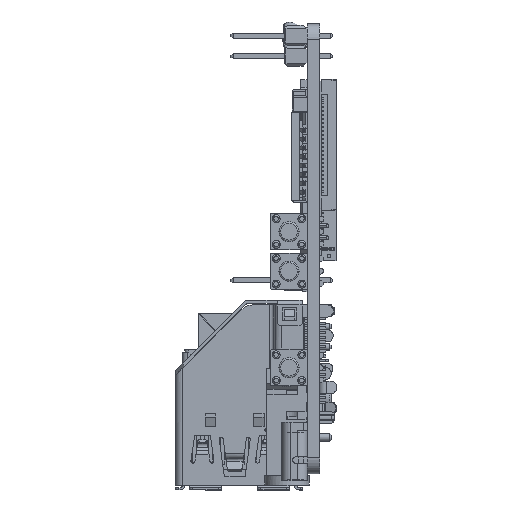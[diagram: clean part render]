
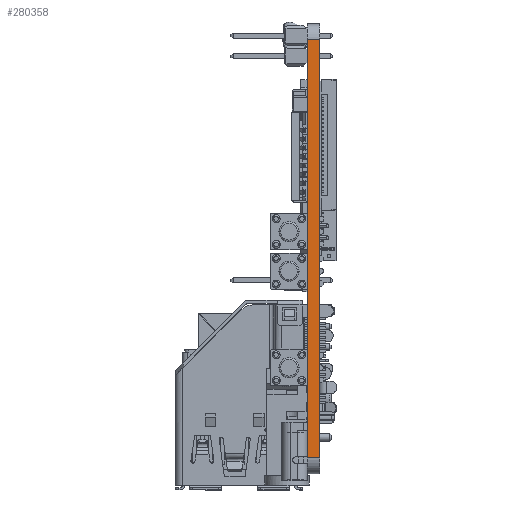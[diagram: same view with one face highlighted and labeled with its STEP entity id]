
A CAD part, left-side view. The second image highlights one B-rep face of the part: STEP entity #280358.
In plain terms, the highlighted planar face has unit normal (-1, 0, 0).
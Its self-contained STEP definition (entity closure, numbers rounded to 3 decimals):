
#3495 = DIRECTION ( 'NONE',  ( 0., 0., -1. ) ) ;
#6293 = LINE ( 'NONE', #268001, #131562 ) ;
#10223 = VECTOR ( 'NONE', #13216, 1000. ) ;
#13216 = DIRECTION ( 'NONE',  ( 0., 0., -1. ) ) ;
#26608 = FACE_OUTER_BOUND ( 'NONE', #273937, .T. ) ;
#29404 = CARTESIAN_POINT ( 'NONE',  ( 0., -1.6, -2. ) ) ;
#31093 = CARTESIAN_POINT ( 'NONE',  ( 0., -1.6, -2. ) ) ;
#38930 = CARTESIAN_POINT ( 'NONE',  ( 0., -1.6, -54. ) ) ;
#46414 = VECTOR ( 'NONE', #85305, 1000. ) ;
#60114 = ORIENTED_EDGE ( 'NONE', *, *, #174973, .T. ) ;
#70671 = DIRECTION ( 'NONE',  ( 0., 0., -1. ) ) ;
#78508 = VERTEX_POINT ( 'NONE', #31093 ) ;
#85305 = DIRECTION ( 'NONE',  ( 0., 1., 0. ) ) ;
#92172 = ORIENTED_EDGE ( 'NONE', *, *, #100977, .T. ) ;
#100977 = EDGE_CURVE ( 'NONE', #189230, #163682, #6293, .T. ) ;
#125549 = LINE ( 'NONE', #145504, #10223 ) ;
#130827 = CARTESIAN_POINT ( 'NONE',  ( 0., 0., -54. ) ) ;
#131562 = VECTOR ( 'NONE', #3495, 1000. ) ;
#138919 = PLANE ( 'NONE',  #206974 ) ;
#141714 = ORIENTED_EDGE ( 'NONE', *, *, #206721, .F. ) ;
#145504 = CARTESIAN_POINT ( 'NONE',  ( 0., -1.6, -2. ) ) ;
#147074 = LINE ( 'NONE', #38930, #179103 ) ;
#148770 = EDGE_CURVE ( 'NONE', #213343, #163682, #147074, .T. ) ;
#149375 = CARTESIAN_POINT ( 'NONE',  ( 0., -1.6, -2. ) ) ;
#150767 = LINE ( 'NONE', #149375, #46414 ) ;
#163682 = VERTEX_POINT ( 'NONE', #130827 ) ;
#174973 = EDGE_CURVE ( 'NONE', #78508, #189230, #150767, .T. ) ;
#179103 = VECTOR ( 'NONE', #213884, 1000. ) ;
#181652 = DIRECTION ( 'NONE',  ( 1., 0., 0. ) ) ;
#189230 = VERTEX_POINT ( 'NONE', #223423 ) ;
#206721 = EDGE_CURVE ( 'NONE', #78508, #213343, #125549, .T. ) ;
#206974 = AXIS2_PLACEMENT_3D ( 'NONE', #29404, #181652, #70671 ) ;
#213343 = VERTEX_POINT ( 'NONE', #248354 ) ;
#213884 = DIRECTION ( 'NONE',  ( 0., 1., 0. ) ) ;
#223423 = CARTESIAN_POINT ( 'NONE',  ( 0., 0., -2. ) ) ;
#248354 = CARTESIAN_POINT ( 'NONE',  ( 0., -1.6, -54. ) ) ;
#268001 = CARTESIAN_POINT ( 'NONE',  ( 0., 0., -2. ) ) ;
#273937 = EDGE_LOOP ( 'NONE', ( #92172, #280378, #141714, #60114 ) ) ;
#280358 = ADVANCED_FACE ( 'NONE', ( #26608 ), #138919, .F. ) ;
#280378 = ORIENTED_EDGE ( 'NONE', *, *, #148770, .F. ) ;
